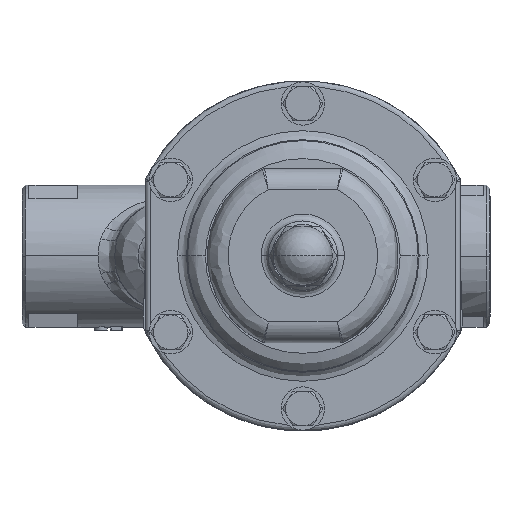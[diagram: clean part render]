
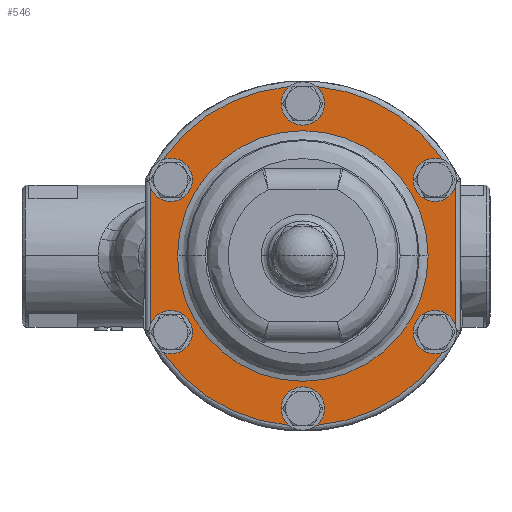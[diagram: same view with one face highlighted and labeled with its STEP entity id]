
A CAD part, top view. The second image highlights one B-rep face of the part: STEP entity #546.
In plain terms, the highlighted planar face has unit normal (0, 0, 1).
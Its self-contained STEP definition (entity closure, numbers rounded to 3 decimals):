
#546=ADVANCED_FACE('',(#2180,#2181,#2182,#2183,#2184,#2185,#2186,#2187),#2179,.F.);
#2179=PLANE('',#7122);
#2180=FACE_OUTER_BOUND('',#7123,.T.);
#2181=FACE_BOUND('',#7124,.T.);
#2182=FACE_BOUND('',#7125,.T.);
#2183=FACE_BOUND('',#7126,.T.);
#2184=FACE_BOUND('',#7127,.T.);
#2185=FACE_BOUND('',#7128,.T.);
#2186=FACE_BOUND('',#7129,.T.);
#2187=FACE_BOUND('',#7130,.T.);
#7119=CARTESIAN_POINT('',(52.8,-58.8,7.));
#7120=DIRECTION('',(0.,0.,-1.));
#7121=DIRECTION('',(-1.,0.,0.));
#7122=AXIS2_PLACEMENT_3D('',#7119,#7120,#7121);
#7123=EDGE_LOOP('',(#13322,#13323,#13324,#13325));
#7124=EDGE_LOOP('',(#13326,#13327));
#7125=EDGE_LOOP('',(#13328,#13329));
#7126=EDGE_LOOP('',(#13330,#13331));
#7127=EDGE_LOOP('',(#13332,#13333));
#7128=EDGE_LOOP('',(#13334,#13335));
#7129=EDGE_LOOP('',(#13336,#13337));
#7130=EDGE_LOOP('',(#13338,#13339));
#13322=ORIENTED_EDGE('',*,*,#15561,.F.);
#13323=ORIENTED_EDGE('',*,*,#15563,.T.);
#13324=ORIENTED_EDGE('',*,*,#15564,.F.);
#13325=ORIENTED_EDGE('',*,*,#15565,.T.);
#13326=ORIENTED_EDGE('',*,*,#15566,.T.);
#13327=ORIENTED_EDGE('',*,*,#15567,.T.);
#13328=ORIENTED_EDGE('',*,*,#15568,.T.);
#13329=ORIENTED_EDGE('',*,*,#15569,.T.);
#13330=ORIENTED_EDGE('',*,*,#15570,.T.);
#13331=ORIENTED_EDGE('',*,*,#15571,.T.);
#13332=ORIENTED_EDGE('',*,*,#15572,.T.);
#13333=ORIENTED_EDGE('',*,*,#15573,.T.);
#13334=ORIENTED_EDGE('',*,*,#15574,.T.);
#13335=ORIENTED_EDGE('',*,*,#15575,.T.);
#13336=ORIENTED_EDGE('',*,*,#15576,.T.);
#13337=ORIENTED_EDGE('',*,*,#15577,.T.);
#13338=ORIENTED_EDGE('',*,*,#15578,.T.);
#13339=ORIENTED_EDGE('',*,*,#15579,.T.);
#15561=EDGE_CURVE('',#18509,#18516,#18517,.T.);
#15563=EDGE_CURVE('',#18509,#18529,#18530,.T.);
#15564=EDGE_CURVE('',#18536,#18529,#18537,.T.);
#15565=EDGE_CURVE('',#18536,#18516,#18543,.T.);
#15566=EDGE_CURVE('',#18549,#18550,#18551,.T.);
#15567=EDGE_CURVE('',#18550,#18549,#18557,.T.);
#15568=EDGE_CURVE('',#18563,#18564,#18565,.T.);
#15569=EDGE_CURVE('',#18564,#18563,#18571,.T.);
#15570=EDGE_CURVE('',#18577,#18578,#18579,.T.);
#15571=EDGE_CURVE('',#18578,#18577,#18585,.T.);
#15572=EDGE_CURVE('',#18591,#18592,#18593,.T.);
#15573=EDGE_CURVE('',#18592,#18591,#18599,.T.);
#15574=EDGE_CURVE('',#18605,#18606,#18607,.T.);
#15575=EDGE_CURVE('',#18606,#18605,#18613,.T.);
#15576=EDGE_CURVE('',#18619,#18620,#18621,.T.);
#15577=EDGE_CURVE('',#18620,#18619,#18627,.T.);
#15578=EDGE_CURVE('',#18633,#18634,#18635,.T.);
#15579=EDGE_CURVE('',#18634,#18633,#18641,.T.);
#18509=VERTEX_POINT('',#26399);
#18516=VERTEX_POINT('',#26404);
#18517=CIRCLE('',#26408,49.);
#18529=VERTEX_POINT('',#26413);
#18530=LINE('',#26414,#26415);
#18536=VERTEX_POINT('',#26417);
#18537=CIRCLE('',#26421,49.);
#18543=LINE('',#26422,#26423);
#18549=VERTEX_POINT('',#26425);
#18550=VERTEX_POINT('',#26426);
#18551=CIRCLE('',#26430,3.5);
#18557=CIRCLE('',#26434,3.5);
#18563=VERTEX_POINT('',#26435);
#18564=VERTEX_POINT('',#26436);
#18565=CIRCLE('',#26440,3.5);
#18571=CIRCLE('',#26444,3.5);
#18577=VERTEX_POINT('',#26445);
#18578=VERTEX_POINT('',#26446);
#18579=CIRCLE('',#26450,3.5);
#18585=CIRCLE('',#26454,3.5);
#18591=VERTEX_POINT('',#26455);
#18592=VERTEX_POINT('',#26456);
#18593=CIRCLE('',#26460,3.5);
#18599=CIRCLE('',#26464,3.5);
#18605=VERTEX_POINT('',#26465);
#18606=VERTEX_POINT('',#26466);
#18607=CIRCLE('',#26470,3.5);
#18613=CIRCLE('',#26474,3.5);
#18619=VERTEX_POINT('',#26475);
#18620=VERTEX_POINT('',#26476);
#18621=CIRCLE('',#26480,36.155);
#18627=CIRCLE('',#26484,36.155);
#18633=VERTEX_POINT('',#26485);
#18634=VERTEX_POINT('',#26486);
#18635=CIRCLE('',#26490,3.5);
#18641=CIRCLE('',#26494,3.5);
#26399=CARTESIAN_POINT('',(44.,-21.564,7.));
#26404=CARTESIAN_POINT('',(-44.,-21.564,7.));
#26405=CARTESIAN_POINT('',(0.,0.,7.));
#26406=DIRECTION('',(0.,0.,-1.));
#26407=DIRECTION('',(1.,0.,0.));
#26408=AXIS2_PLACEMENT_3D('',#26405,#26406,#26407);
#26413=CARTESIAN_POINT('',(44.,21.564,7.));
#26414=CARTESIAN_POINT('',(44.,-21.564,7.));
#26415=VECTOR('',#26416,43.128);
#26416=DIRECTION('',(0.,1.,0.));
#26417=CARTESIAN_POINT('',(-44.,21.564,7.));
#26418=CARTESIAN_POINT('',(0.,0.,7.));
#26419=DIRECTION('',(0.,0.,-1.));
#26420=DIRECTION('',(1.,0.,0.));
#26421=AXIS2_PLACEMENT_3D('',#26418,#26419,#26420);
#26422=CARTESIAN_POINT('',(-44.,21.564,7.));
#26423=VECTOR('',#26424,43.128);
#26424=DIRECTION('',(0.,-1.,0.));
#26425=CARTESIAN_POINT('',(-34.605,22.,7.));
#26426=CARTESIAN_POINT('',(-41.605,22.,7.));
#26427=CARTESIAN_POINT('',(-38.105,22.,7.));
#26428=DIRECTION('',(0.,0.,-1.));
#26429=DIRECTION('',(1.,0.,0.));
#26430=AXIS2_PLACEMENT_3D('',#26427,#26428,#26429);
#26431=CARTESIAN_POINT('',(-38.105,22.,7.));
#26432=DIRECTION('',(0.,0.,-1.));
#26433=DIRECTION('',(1.,0.,0.));
#26434=AXIS2_PLACEMENT_3D('',#26431,#26432,#26433);
#26435=CARTESIAN_POINT('',(41.605,22.,7.));
#26436=CARTESIAN_POINT('',(34.605,22.,7.));
#26437=CARTESIAN_POINT('',(38.105,22.,7.));
#26438=DIRECTION('',(0.,0.,-1.));
#26439=DIRECTION('',(1.,0.,0.));
#26440=AXIS2_PLACEMENT_3D('',#26437,#26438,#26439);
#26441=CARTESIAN_POINT('',(38.105,22.,7.));
#26442=DIRECTION('',(0.,0.,-1.));
#26443=DIRECTION('',(1.,0.,0.));
#26444=AXIS2_PLACEMENT_3D('',#26441,#26442,#26443);
#26445=CARTESIAN_POINT('',(41.605,-22.,7.));
#26446=CARTESIAN_POINT('',(34.605,-22.,7.));
#26447=CARTESIAN_POINT('',(38.105,-22.,7.));
#26448=DIRECTION('',(0.,0.,-1.));
#26449=DIRECTION('',(1.,0.,0.));
#26450=AXIS2_PLACEMENT_3D('',#26447,#26448,#26449);
#26451=CARTESIAN_POINT('',(38.105,-22.,7.));
#26452=DIRECTION('',(0.,0.,-1.));
#26453=DIRECTION('',(1.,0.,0.));
#26454=AXIS2_PLACEMENT_3D('',#26451,#26452,#26453);
#26455=CARTESIAN_POINT('',(-34.605,-22.,7.));
#26456=CARTESIAN_POINT('',(-41.605,-22.,7.));
#26457=CARTESIAN_POINT('',(-38.105,-22.,7.));
#26458=DIRECTION('',(0.,0.,-1.));
#26459=DIRECTION('',(1.,0.,0.));
#26460=AXIS2_PLACEMENT_3D('',#26457,#26458,#26459);
#26461=CARTESIAN_POINT('',(-38.105,-22.,7.));
#26462=DIRECTION('',(0.,0.,-1.));
#26463=DIRECTION('',(1.,0.,0.));
#26464=AXIS2_PLACEMENT_3D('',#26461,#26462,#26463);
#26465=CARTESIAN_POINT('',(3.5,-44.,7.));
#26466=CARTESIAN_POINT('',(-3.5,-44.,7.));
#26467=CARTESIAN_POINT('',(0.,-44.,7.));
#26468=DIRECTION('',(0.,0.,-1.));
#26469=DIRECTION('',(1.,0.,0.));
#26470=AXIS2_PLACEMENT_3D('',#26467,#26468,#26469);
#26471=CARTESIAN_POINT('',(0.,-44.,7.));
#26472=DIRECTION('',(0.,0.,-1.));
#26473=DIRECTION('',(1.,0.,0.));
#26474=AXIS2_PLACEMENT_3D('',#26471,#26472,#26473);
#26475=CARTESIAN_POINT('',(-36.155,0.,7.));
#26476=CARTESIAN_POINT('',(36.155,0.,7.));
#26477=CARTESIAN_POINT('',(0.,0.,7.));
#26478=DIRECTION('',(0.,0.,-1.));
#26479=DIRECTION('',(-1.,0.,0.));
#26480=AXIS2_PLACEMENT_3D('',#26477,#26478,#26479);
#26481=CARTESIAN_POINT('',(0.,0.,7.));
#26482=DIRECTION('',(0.,0.,-1.));
#26483=DIRECTION('',(-1.,0.,0.));
#26484=AXIS2_PLACEMENT_3D('',#26481,#26482,#26483);
#26485=CARTESIAN_POINT('',(3.5,44.,7.));
#26486=CARTESIAN_POINT('',(-3.5,44.,7.));
#26487=CARTESIAN_POINT('',(0.,44.,7.));
#26488=DIRECTION('',(0.,0.,-1.));
#26489=DIRECTION('',(1.,0.,0.));
#26490=AXIS2_PLACEMENT_3D('',#26487,#26488,#26489);
#26491=CARTESIAN_POINT('',(0.,44.,7.));
#26492=DIRECTION('',(0.,0.,-1.));
#26493=DIRECTION('',(1.,0.,0.));
#26494=AXIS2_PLACEMENT_3D('',#26491,#26492,#26493);
